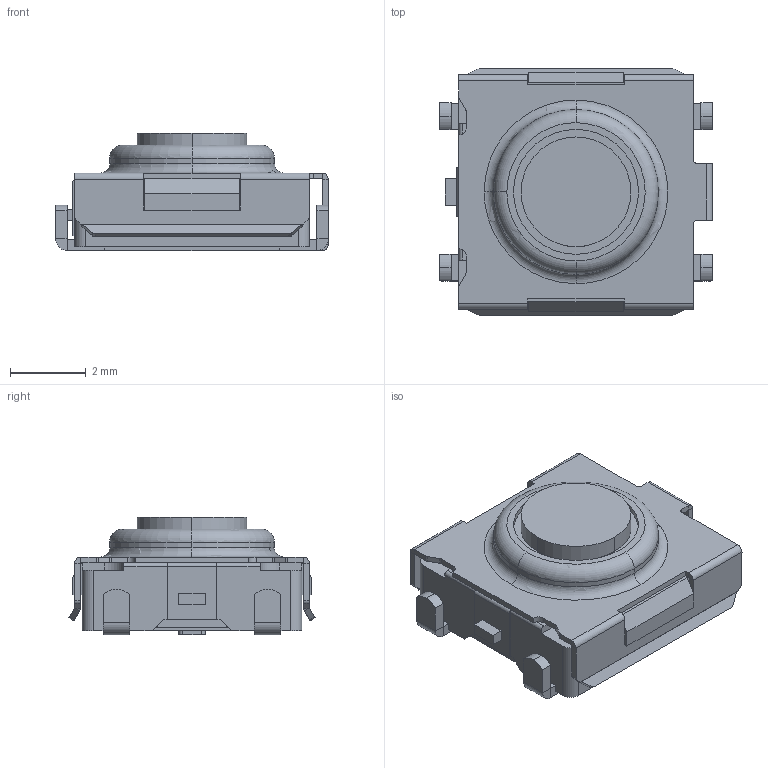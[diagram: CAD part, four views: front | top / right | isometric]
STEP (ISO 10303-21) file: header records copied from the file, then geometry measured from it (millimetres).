
FILE_DESCRIPTION (( 'STEP AP214' ), '1' );
FILE_NAME ('SKHUQG.STEP', '2010-12-24T02:17:46', ( '' ), ( '' ), 'SwSTEP 2.0', 'SolidWorks 2007', '' );
FILE_SCHEMA (( 'AUTOMOTIVE_DESIGN' ));
Length unit declared in the file: millimetre
Products named in the file (1): SKHUQG
Bounding box: 7.2 x 6.5 x 3.1 mm (x, y, z)
Volume: 86.7 mm3; surface area: 196.4 mm2
Topology: 1 solids, 1 shells, 272 faces, 711 edges, 431 vertices
Faces by surface type: plane 174, cylinder 86, torus 6, bspline 4, sphere 2
Entity records: 11577 total; most frequent: CARTESIAN_POINT 1831, ORIENTED_EDGE 1416, DIRECTION 1406, EDGE_CURVE 708, LINE 520, VECTOR 520, AXIS2_PLACEMENT_3D 443, VERTEX_POINT 430
